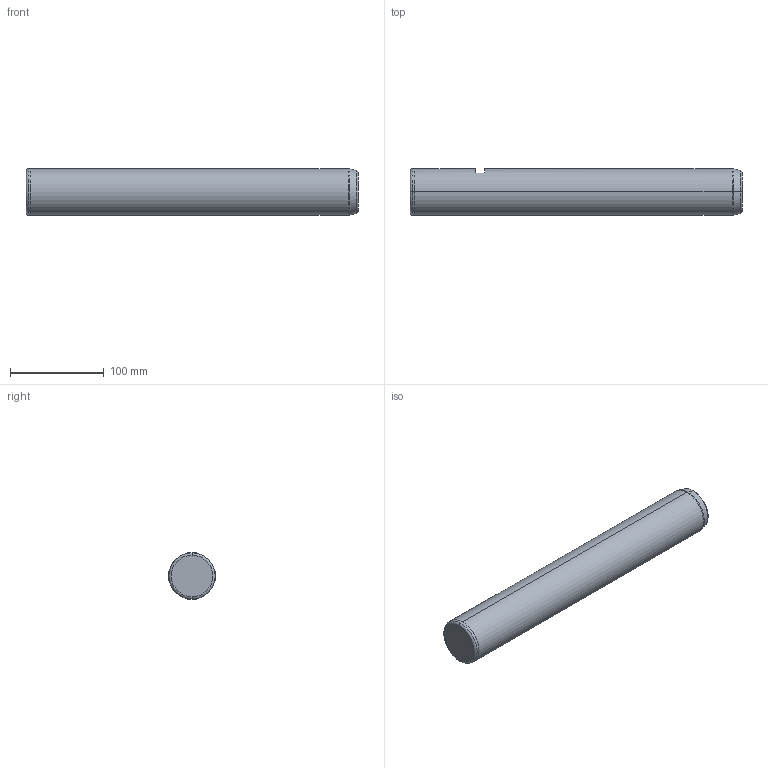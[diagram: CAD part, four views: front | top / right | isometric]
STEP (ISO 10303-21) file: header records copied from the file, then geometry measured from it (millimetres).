
FILE_DESCRIPTION (( 'STEP AP214' ), '1' );
FILE_NAME ('SP202-08-50-355.STEP', '2020-11-03T14:21:59', ( '' ), ( '' ), 'SwSTEP 2.0', 'SolidWorks 2018', '' );
FILE_SCHEMA (( 'AUTOMOTIVE_DESIGN' ));
Length unit declared in the file: millimetre
Products named in the file (1): SP202-08-50-355
Bounding box: 355 x 50 x 50 mm (x, y, z)
Volume: 689300.8 mm3; surface area: 60387.2 mm2
Topology: 1 solids, 1 shells, 26 faces, 54 edges, 31 vertices
Faces by surface type: cylinder 8, cone 6, torus 6, plane 6
Entity records: 744 total; most frequent: CARTESIAN_POINT 150, DIRECTION 132, ORIENTED_EDGE 104, AXIS2_PLACEMENT_3D 57, EDGE_CURVE 52, VERTEX_POINT 31, CIRCLE 30, EDGE_LOOP 29
